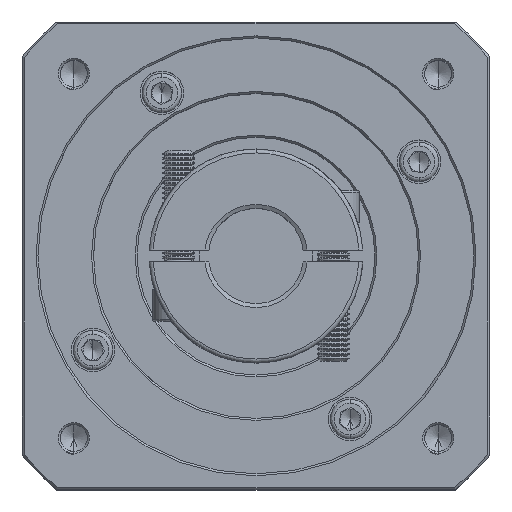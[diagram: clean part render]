
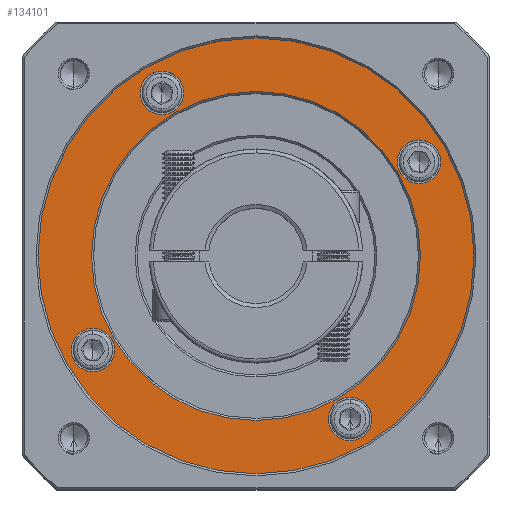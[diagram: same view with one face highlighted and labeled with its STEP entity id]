
A CAD part, top view. The second image highlights one B-rep face of the part: STEP entity #134101.
In plain terms, the highlighted planar face has unit normal (0, 0, 1).
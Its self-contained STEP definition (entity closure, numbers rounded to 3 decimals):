
#158 = ORIENTED_EDGE ( 'NONE', *, *, #112354, .T. ) ;
#397 = AXIS2_PLACEMENT_3D ( 'NONE', #36327, #90201, #24584 ) ;
#479 = CIRCLE ( 'NONE', #46386, 5.5 ) ;
#485 = CARTESIAN_POINT ( 'NONE',  ( 25.079, 93.571, -18.676 ) ) ;
#658 = CARTESIAN_POINT ( 'NONE',  ( 48.829, 52.435, -18.676 ) ) ;
#1096 = CARTESIAN_POINT ( 'NONE',  ( 25.079, 88.071, -18.676 ) ) ;
#1953 = DIRECTION ( 'NONE',  ( 0., 0., -1. ) ) ;
#2744 = CIRCLE ( 'NONE', #86988, 5.5 ) ;
#3320 = ORIENTED_EDGE ( 'NONE', *, *, #49584, .T. ) ;
#3570 = CARTESIAN_POINT ( 'NONE',  ( 7.692, 28.685, -18.676 ) ) ;
#3701 = CARTESIAN_POINT ( 'NONE',  ( 7.692, 34.185, -18.676 ) ) ;
#4377 = CIRCLE ( 'NONE', #126841, 5.5 ) ;
#7096 = EDGE_LOOP ( 'NONE', ( #80399, #47530 ) ) ;
#7707 = EDGE_LOOP ( 'NONE', ( #116045, #158 ) ) ;
#9222 = AXIS2_PLACEMENT_3D ( 'NONE', #485, #129774, #75451 ) ;
#9999 = DIRECTION ( 'NONE',  ( 0., 0., 1. ) ) ;
#10386 = VERTEX_POINT ( 'NONE', #11567 ) ;
#11567 = CARTESIAN_POINT ( 'NONE',  ( 7.329, 52.435, -18.676 ) ) ;
#11798 = CARTESIAN_POINT ( 'NONE',  ( 89.965, 76.185, -18.676 ) ) ;
#12507 = VERTEX_POINT ( 'NONE', #1096 ) ;
#12661 = VERTEX_POINT ( 'NONE', #87734 ) ;
#13064 = PLANE ( 'NONE',  #93280 ) ;
#13127 = CARTESIAN_POINT ( 'NONE',  ( 72.579, 5.799, -18.676 ) ) ;
#13667 = DIRECTION ( 'NONE',  ( 0., 1., 0. ) ) ;
#15282 = EDGE_CURVE ( 'NONE', #15975, #26051, #76973, .T. ) ;
#15975 = VERTEX_POINT ( 'NONE', #54296 ) ;
#16646 = VERTEX_POINT ( 'NONE', #38187 ) ;
#16686 = DIRECTION ( 'NONE',  ( 0., 1., 0. ) ) ;
#17159 = FACE_BOUND ( 'NONE', #7707, .T. ) ;
#18379 = DIRECTION ( 'NONE',  ( 0., 0., -1. ) ) ;
#20934 = CARTESIAN_POINT ( 'NONE',  ( 72.579, 11.299, -18.676 ) ) ;
#21048 = DIRECTION ( 'NONE',  ( 0., 0., -1. ) ) ;
#22409 = CARTESIAN_POINT ( 'NONE',  ( 7.692, 23.185, -18.676 ) ) ;
#23064 = CARTESIAN_POINT ( 'NONE',  ( 48.829, -2.565, -18.676 ) ) ;
#23403 = CARTESIAN_POINT ( 'NONE',  ( 48.829, 52.435, -18.676 ) ) ;
#24584 = DIRECTION ( 'NONE',  ( 0., 1., 0. ) ) ;
#25371 = AXIS2_PLACEMENT_3D ( 'NONE', #47846, #122739, #101234 ) ;
#26051 = VERTEX_POINT ( 'NONE', #13127 ) ;
#29158 = AXIS2_PLACEMENT_3D ( 'NONE', #20934, #108073, #75734 ) ;
#32575 = ORIENTED_EDGE ( 'NONE', *, *, #90526, .T. ) ;
#33614 = VERTEX_POINT ( 'NONE', #118132 ) ;
#36327 = CARTESIAN_POINT ( 'NONE',  ( 48.829, 52.435, -18.676 ) ) ;
#37458 = FACE_OUTER_BOUND ( 'NONE', #39777, .T. ) ;
#38187 = CARTESIAN_POINT ( 'NONE',  ( 90.329, 52.435, -18.676 ) ) ;
#38807 = CIRCLE ( 'NONE', #25371, 41.5 ) ;
#38948 = EDGE_LOOP ( 'NONE', ( #32575, #100856 ) ) ;
#39115 = CIRCLE ( 'NONE', #9222, 5.5 ) ;
#39777 = EDGE_LOOP ( 'NONE', ( #63900, #3320 ) ) ;
#41050 = CARTESIAN_POINT ( 'NONE',  ( 89.965, 70.685, -18.676 ) ) ;
#42923 = CIRCLE ( 'NONE', #29158, 5.5 ) ;
#46386 = AXIS2_PLACEMENT_3D ( 'NONE', #47261, #79982, #16686 ) ;
#47261 = CARTESIAN_POINT ( 'NONE',  ( 25.079, 93.571, -18.676 ) ) ;
#47530 = ORIENTED_EDGE ( 'NONE', *, *, #50461, .T. ) ;
#47846 = CARTESIAN_POINT ( 'NONE',  ( 48.829, 52.435, -18.676 ) ) ;
#48925 = DIRECTION ( 'NONE',  ( 0., 1., 0. ) ) ;
#49584 = EDGE_CURVE ( 'NONE', #57239, #65654, #77533, .T. ) ;
#50461 = EDGE_CURVE ( 'NONE', #10386, #16646, #70436, .T. ) ;
#52238 = CIRCLE ( 'NONE', #77455, 5.5 ) ;
#53711 = EDGE_CURVE ( 'NONE', #65654, #57239, #101466, .T. ) ;
#54193 = EDGE_CURVE ( 'NONE', #12507, #33614, #39115, .T. ) ;
#54296 = CARTESIAN_POINT ( 'NONE',  ( 72.579, 16.799, -18.676 ) ) ;
#55874 = ORIENTED_EDGE ( 'NONE', *, *, #113993, .T. ) ;
#56863 = ORIENTED_EDGE ( 'NONE', *, *, #98732, .T. ) ;
#57239 = VERTEX_POINT ( 'NONE', #23064 ) ;
#57837 = DIRECTION ( 'NONE',  ( 0., 0., -1. ) ) ;
#59697 = EDGE_CURVE ( 'NONE', #107556, #100542, #4377, .T. ) ;
#60635 = ORIENTED_EDGE ( 'NONE', *, *, #59697, .T. ) ;
#62738 = CIRCLE ( 'NONE', #138907, 5.5 ) ;
#63900 = ORIENTED_EDGE ( 'NONE', *, *, #53711, .T. ) ;
#65654 = VERTEX_POINT ( 'NONE', #103298 ) ;
#69263 = FACE_BOUND ( 'NONE', #38948, .T. ) ;
#70056 = AXIS2_PLACEMENT_3D ( 'NONE', #136386, #18379, #124741 ) ;
#70436 = CIRCLE ( 'NONE', #125401, 41.5 ) ;
#73894 = EDGE_LOOP ( 'NONE', ( #120679, #60635 ) ) ;
#75451 = DIRECTION ( 'NONE',  ( 0., 1., 0. ) ) ;
#75734 = DIRECTION ( 'NONE',  ( 0., 1., 0. ) ) ;
#76313 = DIRECTION ( 'NONE',  ( 0., 1., 0. ) ) ;
#76973 = CIRCLE ( 'NONE', #70056, 5.5 ) ;
#77455 = AXIS2_PLACEMENT_3D ( 'NONE', #113027, #57837, #48925 ) ;
#77533 = CIRCLE ( 'NONE', #397, 55. ) ;
#79982 = DIRECTION ( 'NONE',  ( 0., 0., -1. ) ) ;
#80399 = ORIENTED_EDGE ( 'NONE', *, *, #95468, .T. ) ;
#82674 = FACE_BOUND ( 'NONE', #107701, .T. ) ;
#85036 = DIRECTION ( 'NONE',  ( 0., 1., 0. ) ) ;
#86674 = CARTESIAN_POINT ( 'NONE',  ( 89.965, 76.185, -18.676 ) ) ;
#86988 = AXIS2_PLACEMENT_3D ( 'NONE', #86674, #21048, #118477 ) ;
#87734 = CARTESIAN_POINT ( 'NONE',  ( 89.965, 81.685, -18.676 ) ) ;
#89387 = DIRECTION ( 'NONE',  ( 0., 1., 0. ) ) ;
#90201 = DIRECTION ( 'NONE',  ( 0., 0., 1. ) ) ;
#90526 = EDGE_CURVE ( 'NONE', #33614, #12507, #479, .T. ) ;
#93280 = AXIS2_PLACEMENT_3D ( 'NONE', #23403, #129260, #76313 ) ;
#95468 = EDGE_CURVE ( 'NONE', #16646, #10386, #38807, .T. ) ;
#95538 = DIRECTION ( 'NONE',  ( 1., 0., 0. ) ) ;
#96007 = DIRECTION ( 'NONE',  ( 0., 0., -1. ) ) ;
#98732 = EDGE_CURVE ( 'NONE', #101739, #12661, #2744, .T. ) ;
#100542 = VERTEX_POINT ( 'NONE', #3701 ) ;
#100856 = ORIENTED_EDGE ( 'NONE', *, *, #54193, .T. ) ;
#101234 = DIRECTION ( 'NONE',  ( 1., 0., 0. ) ) ;
#101466 = CIRCLE ( 'NONE', #113279, 55. ) ;
#101739 = VERTEX_POINT ( 'NONE', #41050 ) ;
#103298 = CARTESIAN_POINT ( 'NONE',  ( 48.829, 107.435, -18.676 ) ) ;
#107556 = VERTEX_POINT ( 'NONE', #22409 ) ;
#107701 = EDGE_LOOP ( 'NONE', ( #55874, #56863 ) ) ;
#108073 = DIRECTION ( 'NONE',  ( 0., 0., -1. ) ) ;
#111363 = DIRECTION ( 'NONE',  ( 0., 0., -1. ) ) ;
#112354 = EDGE_CURVE ( 'NONE', #26051, #15975, #42923, .T. ) ;
#113027 = CARTESIAN_POINT ( 'NONE',  ( 7.692, 28.685, -18.676 ) ) ;
#113279 = AXIS2_PLACEMENT_3D ( 'NONE', #658, #9999, #85036 ) ;
#113993 = EDGE_CURVE ( 'NONE', #12661, #101739, #62738, .T. ) ;
#116045 = ORIENTED_EDGE ( 'NONE', *, *, #15282, .T. ) ;
#118132 = CARTESIAN_POINT ( 'NONE',  ( 25.079, 99.071, -18.676 ) ) ;
#118477 = DIRECTION ( 'NONE',  ( 0., 1., 0. ) ) ;
#118859 = CARTESIAN_POINT ( 'NONE',  ( 48.829, 52.435, -18.676 ) ) ;
#119490 = FACE_BOUND ( 'NONE', #73894, .T. ) ;
#120679 = ORIENTED_EDGE ( 'NONE', *, *, #136147, .T. ) ;
#122739 = DIRECTION ( 'NONE',  ( 0., 0., -1. ) ) ;
#124741 = DIRECTION ( 'NONE',  ( 0., 1., 0. ) ) ;
#125401 = AXIS2_PLACEMENT_3D ( 'NONE', #118859, #96007, #95538 ) ;
#126841 = AXIS2_PLACEMENT_3D ( 'NONE', #3570, #111363, #89387 ) ;
#129260 = DIRECTION ( 'NONE',  ( 0., 0., 1. ) ) ;
#129774 = DIRECTION ( 'NONE',  ( 0., 0., -1. ) ) ;
#134101 = ADVANCED_FACE ( 'NONE', ( #37458, #137861, #69263, #82674, #119490, #17159 ), #13064, .T. ) ;
#136147 = EDGE_CURVE ( 'NONE', #100542, #107556, #52238, .T. ) ;
#136386 = CARTESIAN_POINT ( 'NONE',  ( 72.579, 11.299, -18.676 ) ) ;
#137861 = FACE_BOUND ( 'NONE', #7096, .T. ) ;
#138907 = AXIS2_PLACEMENT_3D ( 'NONE', #11798, #1953, #13667 ) ;
